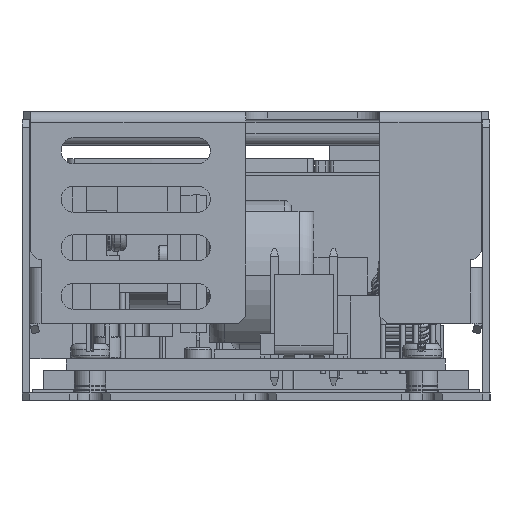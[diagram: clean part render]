
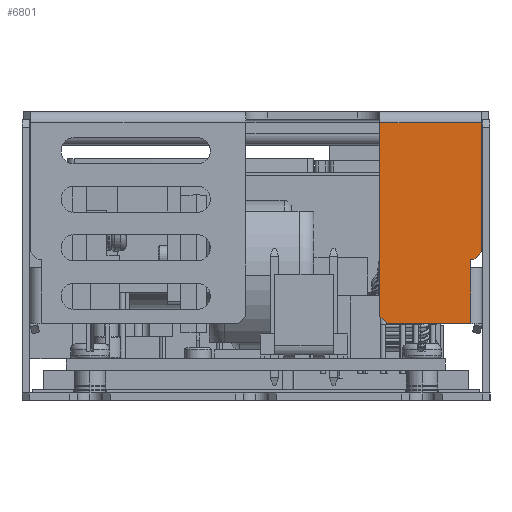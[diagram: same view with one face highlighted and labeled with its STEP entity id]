
A CAD part, left-side view. The second image highlights one B-rep face of the part: STEP entity #6801.
In plain terms, the highlighted planar face has unit normal (-1, 0, 0).
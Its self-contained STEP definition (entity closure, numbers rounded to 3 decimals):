
#717 = LINE ( 'NONE', #143222, #41338 ) ;
#896 = DIRECTION ( 'NONE',  ( 0., 0., 1. ) ) ;
#945 = ORIENTED_EDGE ( 'NONE', *, *, #26668, .T. ) ;
#1722 = CARTESIAN_POINT ( 'NONE',  ( 169.746, 116.263, 13.3 ) ) ;
#1875 = VECTOR ( 'NONE', #30305, 1000. ) ;
#6490 = ORIENTED_EDGE ( 'NONE', *, *, #56946, .F. ) ;
#6801 = ADVANCED_FACE ( 'NONE', ( #82514 ), #91914, .F. ) ;
#7807 = VECTOR ( 'NONE', #107202, 1000. ) ;
#9770 = EDGE_CURVE ( 'NONE', #11480, #112246, #58071, .T. ) ;
#11126 = VECTOR ( 'NONE', #896, 1000. ) ;
#11480 = VERTEX_POINT ( 'NONE', #134873 ) ;
#14589 = VERTEX_POINT ( 'NONE', #31089 ) ;
#16650 = ORIENTED_EDGE ( 'NONE', *, *, #38005, .T. ) ;
#18118 = VERTEX_POINT ( 'NONE', #125700 ) ;
#23435 = CARTESIAN_POINT ( 'NONE',  ( 169.746, 116.163, 4.7 ) ) ;
#24336 = AXIS2_PLACEMENT_3D ( 'NONE', #104344, #141232, #142014 ) ;
#25000 = VECTOR ( 'NONE', #45578, 1000. ) ;
#26668 = EDGE_CURVE ( 'NONE', #112246, #89743, #108072, .T. ) ;
#26960 = CARTESIAN_POINT ( 'NONE',  ( 169.746, 128.363, 31.6 ) ) ;
#30305 = DIRECTION ( 'NONE',  ( 0., 1., 0. ) ) ;
#31089 = CARTESIAN_POINT ( 'NONE',  ( 169.746, 128.363, 5.7 ) ) ;
#32276 = CARTESIAN_POINT ( 'NONE',  ( 169.746, 128.363, 31.6 ) ) ;
#35712 = ORIENTED_EDGE ( 'NONE', *, *, #49864, .T. ) ;
#35956 = DIRECTION ( 'NONE',  ( 0., 0., 1. ) ) ;
#38005 = EDGE_CURVE ( 'NONE', #59412, #82998, #126570, .T. ) ;
#38877 = DIRECTION ( 'NONE',  ( 0., 1., 0. ) ) ;
#41338 = VECTOR ( 'NONE', #35956, 1000. ) ;
#42059 = CARTESIAN_POINT ( 'NONE',  ( 169.746, 114.763, 31.6 ) ) ;
#43092 = VECTOR ( 'NONE', #50345, 1000. ) ;
#45578 = DIRECTION ( 'NONE',  ( 0., 0., -1. ) ) ;
#49056 = LINE ( 'NONE', #143793, #55718 ) ;
#49496 = DIRECTION ( 'NONE',  ( 0., -1., 0. ) ) ;
#49864 = EDGE_CURVE ( 'NONE', #82998, #14589, #103419, .T. ) ;
#50345 = DIRECTION ( 'NONE',  ( 0., 0., -1. ) ) ;
#51299 = ORIENTED_EDGE ( 'NONE', *, *, #113462, .T. ) ;
#51926 = CARTESIAN_POINT ( 'NONE',  ( 169.746, 116.263, 12.2 ) ) ;
#53425 = CARTESIAN_POINT ( 'NONE',  ( 169.746, 127.363, 4.7 ) ) ;
#55718 = VECTOR ( 'NONE', #144540, 1000. ) ;
#56946 = EDGE_CURVE ( 'NONE', #59412, #71809, #100279, .T. ) ;
#57464 = ORIENTED_EDGE ( 'NONE', *, *, #110276, .T. ) ;
#57627 = ORIENTED_EDGE ( 'NONE', *, *, #70698, .F. ) ;
#58071 = LINE ( 'NONE', #94764, #7807 ) ;
#59412 = VERTEX_POINT ( 'NONE', #115705 ) ;
#63403 = VECTOR ( 'NONE', #38877, 1000. ) ;
#64388 = DIRECTION ( 'NONE',  ( 0., 0.707, 0.707 ) ) ;
#67713 = CARTESIAN_POINT ( 'NONE',  ( 169.746, 127.363, 4.7 ) ) ;
#70698 = EDGE_CURVE ( 'NONE', #71809, #18118, #49056, .T. ) ;
#71809 = VERTEX_POINT ( 'NONE', #123890 ) ;
#72956 = VERTEX_POINT ( 'NONE', #67713 ) ;
#74100 = CARTESIAN_POINT ( 'NONE',  ( 169.746, 116.263, 13.3 ) ) ;
#76136 = CARTESIAN_POINT ( 'NONE',  ( 169.746, 114.763, 31.6 ) ) ;
#79958 = EDGE_CURVE ( 'NONE', #72956, #14589, #147337, .T. ) ;
#80493 = CARTESIAN_POINT ( 'NONE',  ( 169.746, 116.163, 4.7 ) ) ;
#82514 = FACE_OUTER_BOUND ( 'NONE', #137849, .T. ) ;
#82998 = VERTEX_POINT ( 'NONE', #26960 ) ;
#89743 = VERTEX_POINT ( 'NONE', #74100 ) ;
#91914 = PLANE ( 'NONE',  #24336 ) ;
#94764 = CARTESIAN_POINT ( 'NONE',  ( 169.746, 116.163, 12.2 ) ) ;
#100279 = LINE ( 'NONE', #76136, #43092 ) ;
#103293 = ORIENTED_EDGE ( 'NONE', *, *, #79958, .F. ) ;
#103419 = LINE ( 'NONE', #32276, #25000 ) ;
#104344 = CARTESIAN_POINT ( 'NONE',  ( 169.746, 144.963, 33.1 ) ) ;
#107202 = DIRECTION ( 'NONE',  ( 0., 1., 0. ) ) ;
#108072 = LINE ( 'NONE', #145711, #11126 ) ;
#108907 = LINE ( 'NONE', #1722, #137744 ) ;
#110276 = EDGE_CURVE ( 'NONE', #89743, #18118, #108907, .T. ) ;
#111726 = VECTOR ( 'NONE', #64388, 1000. ) ;
#112246 = VERTEX_POINT ( 'NONE', #51926 ) ;
#113462 = EDGE_CURVE ( 'NONE', #123034, #11480, #717, .T. ) ;
#115705 = CARTESIAN_POINT ( 'NONE',  ( 169.746, 114.763, 31.6 ) ) ;
#117880 = ORIENTED_EDGE ( 'NONE', *, *, #134421, .F. ) ;
#120520 = ORIENTED_EDGE ( 'NONE', *, *, #9770, .T. ) ;
#123034 = VERTEX_POINT ( 'NONE', #80493 ) ;
#123890 = CARTESIAN_POINT ( 'NONE',  ( 169.746, 114.763, 14.3 ) ) ;
#125700 = CARTESIAN_POINT ( 'NONE',  ( 169.746, 115.763, 13.3 ) ) ;
#126570 = LINE ( 'NONE', #42059, #1875 ) ;
#134421 = EDGE_CURVE ( 'NONE', #123034, #72956, #146190, .T. ) ;
#134873 = CARTESIAN_POINT ( 'NONE',  ( 169.746, 116.163, 12.2 ) ) ;
#137744 = VECTOR ( 'NONE', #49496, 1000. ) ;
#137849 = EDGE_LOOP ( 'NONE', ( #117880, #51299, #120520, #945, #57464, #57627, #6490, #16650, #35712, #103293 ) ) ;
#141232 = DIRECTION ( 'NONE',  ( 1., 0., 0. ) ) ;
#142014 = DIRECTION ( 'NONE',  ( 0., 0., -1. ) ) ;
#143222 = CARTESIAN_POINT ( 'NONE',  ( 169.746, 116.163, 4.7 ) ) ;
#143793 = CARTESIAN_POINT ( 'NONE',  ( 169.746, 114.763, 14.3 ) ) ;
#144540 = DIRECTION ( 'NONE',  ( 0., 0.707, -0.707 ) ) ;
#145711 = CARTESIAN_POINT ( 'NONE',  ( 169.746, 116.263, 12.2 ) ) ;
#146190 = LINE ( 'NONE', #23435, #63403 ) ;
#147337 = LINE ( 'NONE', #53425, #111726 ) ;
